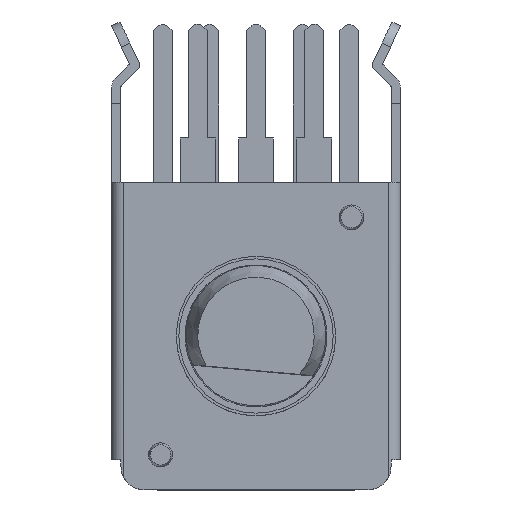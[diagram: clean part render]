
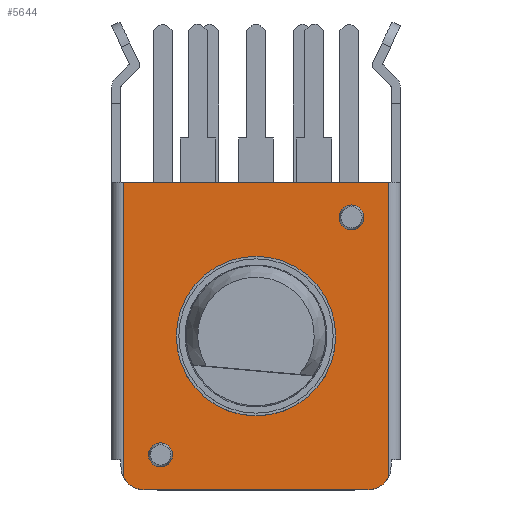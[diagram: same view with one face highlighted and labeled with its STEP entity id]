
A CAD part, top view. The second image highlights one B-rep face of the part: STEP entity #5644.
In plain terms, the highlighted planar face has unit normal (0, 0, 1).
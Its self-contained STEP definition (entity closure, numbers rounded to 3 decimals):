
#112=CIRCLE($,#5949,1.);
#135=CIRCLE($,#6005,1.);
#495=FACE_OUTER_BOUND($,#797,.T.);
#797=EDGE_LOOP($,(#4863,#4864,#4865,#4866,#4867,#4868));
#1199=LINE($,#8544,#1895);
#1248=LINE($,#8676,#1944);
#1322=LINE($,#8871,#2018);
#1426=LINE($,#9130,#2122);
#1895=VECTOR($,#6873,9.6);
#1944=VECTOR($,#6976,12.636);
#2018=VECTOR($,#7162,12.636);
#2122=VECTOR($,#7408,11.4);
#2509=VERTEX_POINT($,#8538);
#2511=VERTEX_POINT($,#8542);
#2556=VERTEX_POINT($,#8654);
#2561=VERTEX_POINT($,#8675);
#2617=VERTEX_POINT($,#8856);
#2620=VERTEX_POINT($,#8869);
#3194=EDGE_CURVE($,#2511,#2509,#1199,.T.);
#3248=EDGE_CURVE($,#2509,#2556,#112,.T.);
#3255=EDGE_CURVE($,#2556,#2561,#1248,.T.);
#3349=EDGE_CURVE($,#2617,#2511,#135,.T.);
#3354=EDGE_CURVE($,#2620,#2617,#1322,.T.);
#3487=EDGE_CURVE($,#2561,#2620,#1426,.T.);
#4863=ORIENTED_EDGE($,*,*,#3248,.F.);
#4864=ORIENTED_EDGE($,*,*,#3194,.F.);
#4865=ORIENTED_EDGE($,*,*,#3349,.F.);
#4866=ORIENTED_EDGE($,*,*,#3354,.F.);
#4867=ORIENTED_EDGE($,*,*,#3487,.F.);
#4868=ORIENTED_EDGE($,*,*,#3255,.F.);
#5360=PLANE($,#6093);
#5644=ADVANCED_FACE($,(#495),#5360,.T.);
#5949=AXIS2_PLACEMENT_3D($,#8662,#6963,#6964);
#6005=AXIS2_PLACEMENT_3D($,#8857,#7153,#7154);
#6093=AXIS2_PLACEMENT_3D($,#9155,#7443,#7444);
#6873=DIRECTION($,(-1.,0.,0.));
#6963=DIRECTION('center_axis',(0.,0.,
-1.));
#6964=DIRECTION('ref_axis',(-0.707,-0.707,0.));
#6976=DIRECTION($,(0.,1.,0.));
#7153=DIRECTION('center_axis',(0.,0.,
-1.));
#7154=DIRECTION('ref_axis',(0.707,-0.707,0.));
#7162=DIRECTION($,(0.,-1.,0.));
#7408=DIRECTION($,(1.,0.,0.));
#7443=DIRECTION('center_axis',(0.,0.,
1.));
#7444=DIRECTION('ref_axis',(-1.,0.,0.));
#8538=CARTESIAN_POINT('',(-4.8,-6.6,6.1));
#8542=CARTESIAN_POINT('',(4.8,-6.6,6.1));
#8544=CARTESIAN_POINT($,(5.8,-6.6,6.1));
#8654=CARTESIAN_POINT('',(-5.7,-6.036,6.1));
#8662=CARTESIAN_POINT('Origin',(-4.8,-5.6,6.1));
#8675=CARTESIAN_POINT('',(-5.7,6.6,6.1));
#8676=CARTESIAN_POINT($,(-5.7,0.,6.1));
#8856=CARTESIAN_POINT('',(5.7,-6.036,6.1));
#8857=CARTESIAN_POINT('Origin',(4.8,-5.6,6.1));
#8869=CARTESIAN_POINT('',(5.7,6.6,6.1));
#8871=CARTESIAN_POINT($,(5.7,0.,6.1));
#9130=CARTESIAN_POINT($,(5.8,6.6,6.1));
#9155=CARTESIAN_POINT('Origin',(0.,0.,
6.1));
